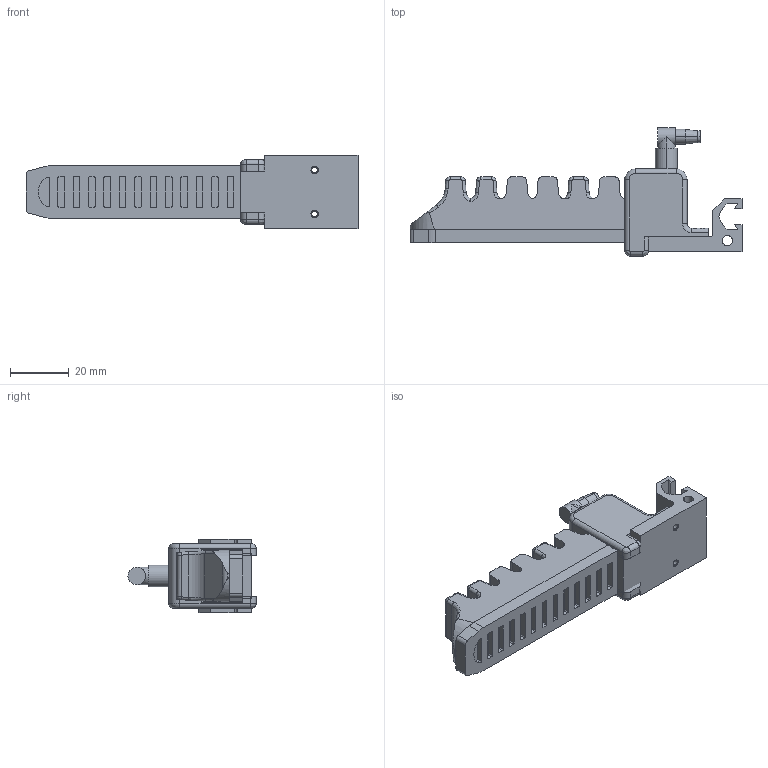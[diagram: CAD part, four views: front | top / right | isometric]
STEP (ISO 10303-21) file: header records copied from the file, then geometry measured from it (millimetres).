
FILE_DESCRIPTION (( 'STEP AP214' ), '1' );
FILE_NAME ('GFM-B7V5.STEP', '2019-12-04T03:47:13', ( '微软用户' ), ( '微软中国' ), 'SwSTEP 2.0', 'SolidWorks 2016', '' );
FILE_SCHEMA (( 'AUTOMOTIVE_DESIGN' ));
Length unit declared in the file: millimetre
Products named in the file (1): GFM-B7V5
Bounding box: 113.33 x 43.75 x 25 mm (x, y, z)
Volume: 40044.8 mm3; surface area: 18626.3 mm2
Topology: 4 solids, 4 shells, 371 faces, 947 edges, 599 vertices
Faces by surface type: cylinder 169, plane 150, bspline 32, cone 14, torus 6
Entity records: 17084 total; most frequent: CARTESIAN_POINT 4171, ORIENTED_EDGE 1894, DIRECTION 1788, EDGE_CURVE 947, AXIS2_PLACEMENT_3D 628, VERTEX_POINT 599, LINE 532, VECTOR 532
